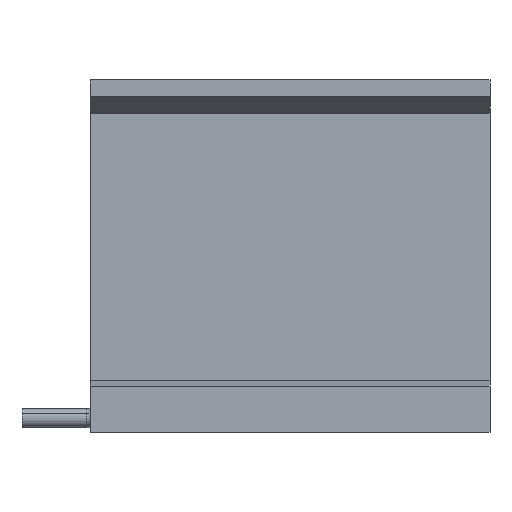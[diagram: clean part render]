
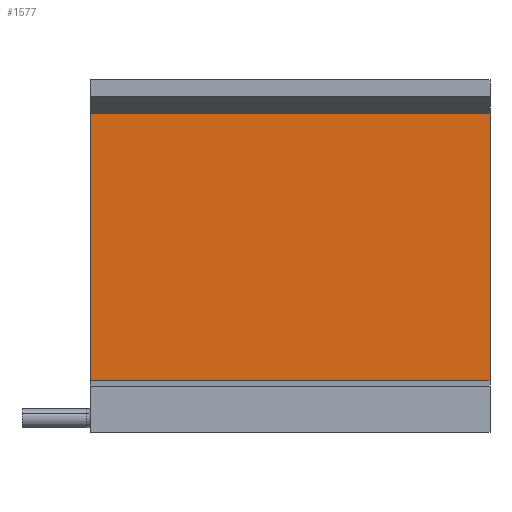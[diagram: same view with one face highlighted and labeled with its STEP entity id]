
A CAD part, left-side view. The second image highlights one B-rep face of the part: STEP entity #1577.
In plain terms, the highlighted planar face has unit normal (-1, 0, 0) as drawn and (1, 0, 0) by its records, which use the part's own axes.
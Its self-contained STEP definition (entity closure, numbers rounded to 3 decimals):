
#74 = VERTEX_POINT ( 'NONE', #1647 ) ;
#96 = VECTOR ( 'NONE', #1651, 1000. ) ;
#241 = VERTEX_POINT ( 'NONE', #2091 ) ;
#377 = DIRECTION ( 'NONE',  ( 0., 1., 0. ) ) ;
#687 = CARTESIAN_POINT ( 'NONE',  ( 21.35, 154.11, 205. ) ) ;
#891 = VERTEX_POINT ( 'NONE', #3082 ) ;
#957 = ORIENTED_EDGE ( 'NONE', *, *, #1836, .F. ) ;
#1308 = DIRECTION ( 'NONE',  ( 0., 0., -1. ) ) ;
#1444 = LINE ( 'NONE', #1759, #1986 ) ;
#1511 = EDGE_LOOP ( 'NONE', ( #3216, #957, #1985, #1838 ) ) ;
#1577 = ADVANCED_FACE ( 'NONE', ( #3115 ), #2713, .F. ) ;
#1647 = CARTESIAN_POINT ( 'NONE',  ( 21.35, 17.11, 0. ) ) ;
#1651 = DIRECTION ( 'NONE',  ( 0., 0., -1. ) ) ;
#1759 = CARTESIAN_POINT ( 'NONE',  ( 21.35, 17.11, 205. ) ) ;
#1836 = EDGE_CURVE ( 'NONE', #891, #241, #2625, .T. ) ;
#1838 = ORIENTED_EDGE ( 'NONE', *, *, #2275, .T. ) ;
#1963 = EDGE_CURVE ( 'NONE', #2640, #891, #2414, .T. ) ;
#1981 = AXIS2_PLACEMENT_3D ( 'NONE', #2753, #3686, #4005 ) ;
#1985 = ORIENTED_EDGE ( 'NONE', *, *, #1963, .F. ) ;
#1986 = VECTOR ( 'NONE', #1308, 1000. ) ;
#2091 = CARTESIAN_POINT ( 'NONE',  ( 21.35, 154.11, 0. ) ) ;
#2275 = EDGE_CURVE ( 'NONE', #2640, #74, #1444, .T. ) ;
#2414 = LINE ( 'NONE', #4041, #3400 ) ;
#2625 = LINE ( 'NONE', #687, #96 ) ;
#2640 = VERTEX_POINT ( 'NONE', #4035 ) ;
#2697 = LINE ( 'NONE', #3276, #3747 ) ;
#2713 = PLANE ( 'NONE',  #1981 ) ;
#2753 = CARTESIAN_POINT ( 'NONE',  ( 21.35, 17.11, 205. ) ) ;
#3082 = CARTESIAN_POINT ( 'NONE',  ( 21.35, 154.11, 205. ) ) ;
#3115 = FACE_OUTER_BOUND ( 'NONE', #1511, .T. ) ;
#3216 = ORIENTED_EDGE ( 'NONE', *, *, #3246, .T. ) ;
#3246 = EDGE_CURVE ( 'NONE', #74, #241, #2697, .T. ) ;
#3276 = CARTESIAN_POINT ( 'NONE',  ( 21.35, 17.11, 0. ) ) ;
#3400 = VECTOR ( 'NONE', #4064, 1000. ) ;
#3686 = DIRECTION ( 'NONE',  ( -1., 0., 0. ) ) ;
#3747 = VECTOR ( 'NONE', #377, 1000. ) ;
#4005 = DIRECTION ( 'NONE',  ( 0., 0., 1. ) ) ;
#4035 = CARTESIAN_POINT ( 'NONE',  ( 21.35, 17.11, 205. ) ) ;
#4041 = CARTESIAN_POINT ( 'NONE',  ( 21.35, 17.11, 205. ) ) ;
#4064 = DIRECTION ( 'NONE',  ( 0., 1., 0. ) ) ;
